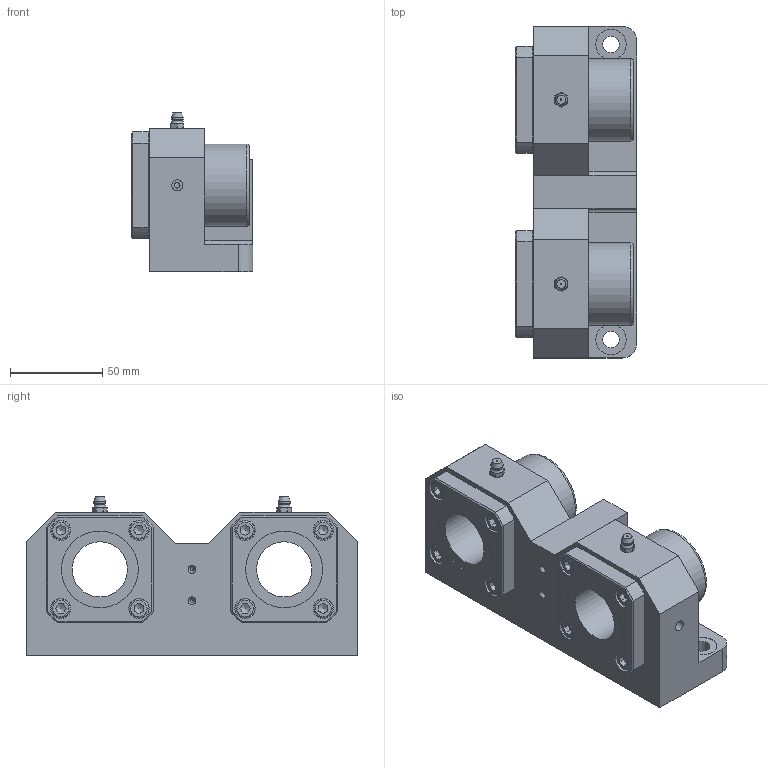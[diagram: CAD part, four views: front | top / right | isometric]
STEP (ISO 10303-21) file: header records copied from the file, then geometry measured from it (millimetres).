
FILE_DESCRIPTION((''),'2;1');
FILE_NAME('D:\製品 (図面)\カタログ用3D\リニアベアリング関連\STEP形式\LUF\LUF30.stp','2010-07-29T14:29:20',('Tsuchiya'),(''),'Autodesk Inventor 10','Autodesk Inventor 10','');
FILE_SCHEMA(('AUTOMOTIVE_DESIGN { 1 0 10303 214 1 1 1 1 }'));
Length unit declared in the file: millimetre
Products named in the file (4): LUF30; LUF301; LUF302; LUF303
Assembly tree (3 placements, depth 2):
  LUF30
    LUF301
    LUF302
    LUF303
Bounding box: 66 x 180 x 86.8 mm (x, y, z)
Volume: 532521.4 mm3; surface area: 109714.3 mm2
Topology: 13 solids, 13 shells, 358 faces, 786 edges, 494 vertices
Faces by surface type: plane 156, cylinder 82, cone 68, bspline 38, torus 10, sphere 4
Full cylindrical faces by diameter (mm): 2 x2, 3 x3, 6 x16, 6.6 x8, 9 x1, 10 x8, 11 x8, 16.5 x1, 30 x2, 41.7 x4, 45 x5
Entity records: 10747 total; most frequent: CARTESIAN_POINT 3939, DIRECTION 1336, ORIENTED_EDGE 1200, EDGE_CURVE 600, EDGE_LOOP 574, AXIS2_PLACEMENT_3D 565, VERTEX_POINT 448, FACE_OUTER_BOUND 358
